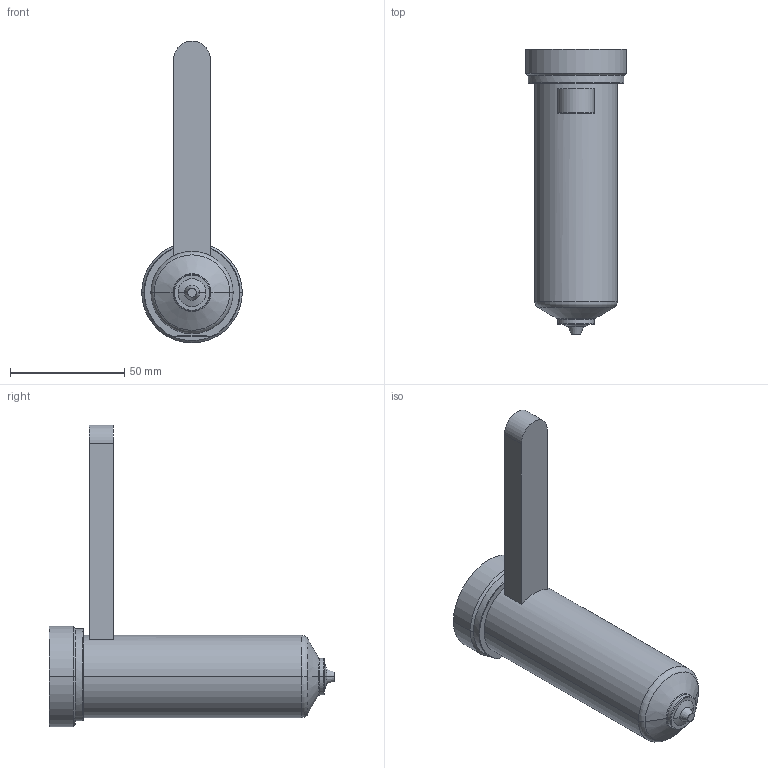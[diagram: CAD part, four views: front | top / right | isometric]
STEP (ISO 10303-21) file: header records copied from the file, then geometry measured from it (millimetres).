
FILE_DESCRIPTION((''),'2;1');
FILE_NAME('EO12_VG-BL_WR_110_COT','2024-02-19T13:16:26',('sundharh'),(''),'CREO PARAMETRIC BY PTC INC, 2023154','CREO PARAMETRIC BY PTC INC, 2023154','');
FILE_SCHEMA(('CONFIG_CONTROL_DESIGN'));
Length unit declared in the file: millimetre
Products named in the file (1): EO12_VG-BL_WR_110_COT
Bounding box: 44 x 125 x 132 mm (x, y, z)
Volume: 140239.3 mm3; surface area: 21044.5 mm2
Topology: 1 solids, 1 shells, 38 faces, 81 edges, 48 vertices
Faces by surface type: cylinder 11, plane 10, torus 9, cone 6, sphere 2
Entity records: 1135 total; most frequent: CARTESIAN_POINT 247, DIRECTION 199, ORIENTED_EDGE 162, AXIS2_PLACEMENT_3D 86, EDGE_CURVE 81, VERTEX_POINT 48, CIRCLE 48, EDGE_LOOP 41
